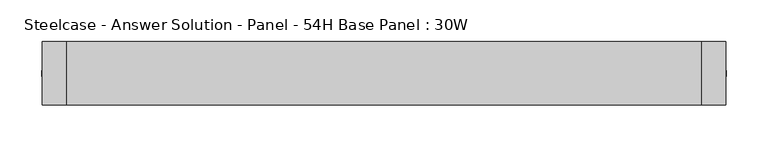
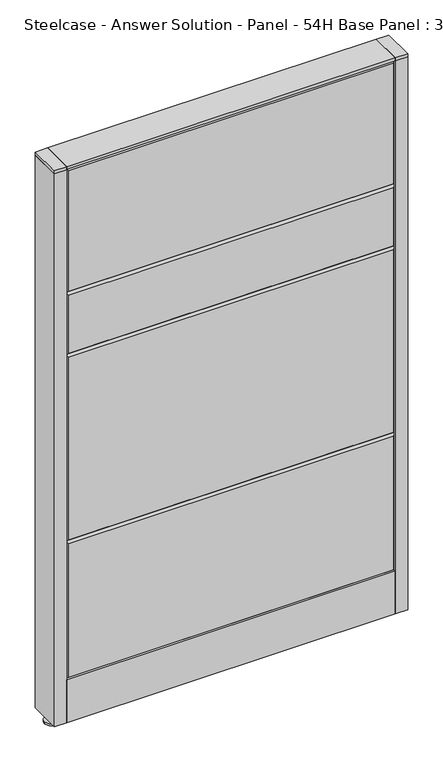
"""IFC4 building model written with IfcOpenShell, lengths in millimetres: furniture geometry, Steelcase - Answer Solution - Panel - 54H Base Panel : 30W."""

from ifc_helpers import new_model, si_unit, point, frame, frame_2d, origin, place, context, project, spatial, polyline, circle_curve, trimmed, segment, composite_curve, outline, extrude, faceted_brep, source, transform, mapped, element, save


def steelcase_answer_solution_panel_54h_base_panel_30w_f4afe34c(model_context):
    return source(origin(), model_context, "Body", "SolidModel", [
        extrude(outline(composite_curve([segment(trimmed(circle_curve(frame_2d((395.224, 0.0320214)), 5.08), [point((400.304, 0.0320214))], [point((390.144, 0.0320214))], False, "CARTESIAN"), True, "CONTINUOUS"), segment(trimmed(circle_curve(frame_2d((395.224, 0.0320214)), 5.08), [point((390.144, 0.0320214))], [point((400.304, 0.0320214))], False, "CARTESIAN"), True, "CONTINUOUS")], self_intersect=False)), frame((0.0, 0.0, 5.0799671), z_axis=(0.0, 0.0, 1.0), x_axis=(1.0, 0.0, 0.0)), (0.0, 0.0, 1.0), 10.414),
        extrude(outline(composite_curve([segment(trimmed(circle_curve(frame_2d((395.224, 0.0320214)), 15.24), [point((410.464, 0.0320214))], [point((379.984, 0.0320214))], False, "CARTESIAN"), True, "CONTINUOUS"), segment(trimmed(circle_curve(frame_2d((395.224, 0.0320214)), 15.24), [point((379.984, 0.0320214))], [point((410.464, 0.0320214))], False, "CARTESIAN"), True, "CONTINUOUS")], self_intersect=False)), frame((0.0, 0.0, -3.29e-05), z_axis=(0.0, 0.0, 1.0), x_axis=(1.0, 0.0, 0.0)), (0.0, 0.0, 1.0), 5.08),
        extrude(outline(polyline([(409.575, 38.1320408), (409.575, -38.0679592), (381.0, -38.0679592), (381.0, 38.1320408), (409.575, 38.1320408)])), frame((0.0, 0.0, 1370.6348), z_axis=(0.0, 0.0, 1.0), x_axis=(1.0, 0.0, 0.0)), (0.0, 0.0, 1.0), 7.3151671),
        extrude(outline(polyline([(409.575, 38.1320408), (409.575, -38.0679592), (381.0, -38.0679592), (381.0, 38.1320408), (409.575, 38.1320408)])), frame((0.0, 0.0, 15.4939671), z_axis=(0.0, 0.0, 1.0), x_axis=(1.0, 0.0, 0.0)), (0.0, 0.0, 1.0), 1355.1408329),
        extrude(outline(composite_curve([segment(trimmed(circle_curve(frame_2d((-395.224, 0.0320214)), 5.08), [point((-400.304, 0.0320214))], [point((-390.144, 0.0320214))], False, "CARTESIAN"), True, "CONTINUOUS"), segment(trimmed(circle_curve(frame_2d((-395.224, 0.0320214)), 5.08), [point((-390.144, 0.0320214))], [point((-400.304, 0.0320214))], False, "CARTESIAN"), True, "CONTINUOUS")], self_intersect=False)), frame((0.0, 0.0, 5.0799671), z_axis=(0.0, 0.0, 1.0), x_axis=(1.0, 0.0, 0.0)), (0.0, 0.0, 1.0), 10.414),
        extrude(outline(composite_curve([segment(trimmed(circle_curve(frame_2d((-395.224, 0.0320214)), 15.24), [point((-410.464, 0.0320214))], [point((-379.984, 0.0320214))], False, "CARTESIAN"), True, "CONTINUOUS"), segment(trimmed(circle_curve(frame_2d((-395.224, 0.0320214)), 15.24), [point((-379.984, 0.0320214))], [point((-410.464, 0.0320214))], False, "CARTESIAN"), True, "CONTINUOUS")], self_intersect=False)), frame((0.0, 0.0, -3.29e-05), z_axis=(0.0, 0.0, 1.0), x_axis=(1.0, 0.0, 0.0)), (0.0, 0.0, 1.0), 5.08),
        extrude(outline(polyline([(-409.575, 38.1320408), (-381.0, 38.1320408), (-381.0, -38.0679592), (-409.575, -38.0679592), (-409.575, 38.1320408)])), frame((0.0, 0.0, 1370.6348), z_axis=(0.0, 0.0, 1.0), x_axis=(1.0, 0.0, 0.0)), (0.0, 0.0, 1.0), 7.3151671),
        extrude(outline(polyline([(-409.575, 38.1320408), (-381.0, 38.1320408), (-381.0, -38.0679592), (-409.575, -38.0679592), (-409.575, 38.1320408)])), frame((0.0, 0.0, 15.4939671), z_axis=(0.0, 0.0, 1.0), x_axis=(1.0, 0.0, 0.0)), (0.0, 0.0, 1.0), 1355.1408329),
        faceted_brep([(-376.174, 38.1635011, 1366.774), (376.174, 38.1635011, 1366.774), (376.174, 38.1635011, 1071.626), (-376.174, 38.1635011, 1071.626), (-381.0, 33.3375011, 1371.6), (-381.0, 33.3375011, 1066.8), (381.0, 33.3375011, 1066.8), (381.0, 33.3375011, 1371.6)], [[[0, 1, 2, 3]], [[4, 5, 6, 7]], [[4, 7, 1, 0]], [[7, 6, 2, 1]], [[6, 5, 3, 2]], [[5, 4, 0, 3]]]),
        faceted_brep([(-376.174, 38.1635011, 1061.974), (376.174, 38.1635011, 1061.974), (376.174, 38.1635011, 919.226), (-376.174, 38.1635011, 919.226), (-381.0, 33.3375011, 1066.8), (-381.0, 33.3375011, 914.4), (381.0, 33.3375011, 914.4), (381.0, 33.3375011, 1066.8)], [[[0, 1, 2, 3]], [[4, 5, 6, 7]], [[4, 7, 1, 0]], [[7, 6, 2, 1]], [[6, 5, 3, 2]], [[5, 4, 0, 3]]]),
        faceted_brep([(-376.174, 38.1635011, 909.574), (376.174, 38.1635011, 909.574), (376.174, 38.1635011, 462.026), (-376.174, 38.1635011, 462.026), (-381.0, 33.3375011, 914.4), (-381.0, 33.3375011, 457.2), (381.0, 33.3375011, 457.2), (381.0, 33.3375011, 914.4)], [[[0, 1, 2, 3]], [[4, 5, 6, 7]], [[4, 7, 1, 0]], [[7, 6, 2, 1]], [[6, 5, 3, 2]], [[5, 4, 0, 3]]]),
        faceted_brep([(-376.174, 38.1635011, 452.374), (376.174, 38.1635011, 452.374), (376.174, 38.1635011, 125.476), (-376.174, 38.1635011, 125.476), (-381.0, 33.3375011, 457.2), (-381.0, 33.3375011, 120.65), (381.0, 33.3375011, 120.65), (381.0, 33.3375011, 457.2)], [[[0, 1, 2, 3]], [[4, 5, 6, 7]], [[4, 7, 1, 0]], [[7, 6, 2, 1]], [[6, 5, 3, 2]], [[5, 4, 0, 3]]]),
        faceted_brep([(376.174, -38.1635011, 1366.774), (-376.174, -38.1635011, 1366.774), (-376.174, -38.1635011, 1071.626), (376.174, -38.1635011, 1071.626), (381.0, -33.3375011, 1371.6), (381.0, -33.3375011, 1066.8), (-381.0, -33.3375011, 1066.8), (-381.0, -33.3375011, 1371.6)], [[[0, 1, 2, 3]], [[4, 5, 6, 7]], [[4, 7, 1, 0]], [[7, 6, 2, 1]], [[6, 5, 3, 2]], [[5, 4, 0, 3]]]),
        faceted_brep([(376.174, -38.1635011, 1061.974), (-376.174, -38.1635011, 1061.974), (-376.174, -38.1635011, 919.226), (376.174, -38.1635011, 919.226), (381.0, -33.3375011, 1066.8), (381.0, -33.3375011, 914.4), (-381.0, -33.3375011, 914.4), (-381.0, -33.3375011, 1066.8)], [[[0, 1, 2, 3]], [[4, 5, 6, 7]], [[4, 7, 1, 0]], [[7, 6, 2, 1]], [[6, 5, 3, 2]], [[5, 4, 0, 3]]]),
        faceted_brep([(376.174, -38.1635011, 909.574), (-376.174, -38.1635011, 909.574), (-376.174, -38.1635011, 462.026), (376.174, -38.1635011, 462.026), (381.0, -33.3375011, 914.4), (381.0, -33.3375011, 457.2), (-381.0, -33.3375011, 457.2), (-381.0, -33.3375011, 914.4)], [[[0, 1, 2, 3]], [[4, 5, 6, 7]], [[4, 7, 1, 0]], [[7, 6, 2, 1]], [[6, 5, 3, 2]], [[5, 4, 0, 3]]]),
        faceted_brep([(376.174, -38.1635011, 452.374), (-376.174, -38.1635011, 452.374), (-376.174, -38.1635011, 125.476), (376.174, -38.1635011, 125.476), (381.0, -33.3375011, 457.2), (381.0, -33.3375011, 120.65), (-381.0, -33.3375011, 120.65), (-381.0, -33.3375011, 457.2)], [[[0, 1, 2, 3]], [[4, 5, 6, 7]], [[4, 7, 1, 0]], [[7, 6, 2, 1]], [[6, 5, 3, 2]], [[5, 4, 0, 3]]]),
        extrude(outline(polyline([(381.0, 38.1000194), (381.0, -38.1000194), (-381.0, -38.1000194), (-381.0, 38.1000194), (381.0, 38.1000194)])), frame((0.0, 0.0, 1371.6), z_axis=(0.0, 0.0, 1.0), x_axis=(1.0, 0.0, 0.0)), (0.0, 0.0, 1.0), 6.35),
        extrude(outline(polyline([(25.4000011, 119.8575157), (25.4000011, 120.65), (38.1000194, 120.65), (38.1000194, 15.494), (37.3075215, 15.494), (37.3075215, 119.8575157), (25.4000011, 119.8575157)])), frame((-381.0, 0.0, 0.0), z_axis=(1.0, 0.0, 0.0), x_axis=(0.0, 1.0, 0.0)), (0.0, 0.0, 1.0), 762.0),
        extrude(outline(polyline([(-25.4000011, 119.8575157), (-37.3075215, 119.8575157), (-37.3075215, 15.494), (-38.1000194, 15.494), (-38.1000194, 120.65), (-25.4000011, 120.65), (-25.4000011, 119.8575157)])), frame((-381.0, 0.0, 0.0), z_axis=(1.0, 0.0, 0.0), x_axis=(0.0, 1.0, 0.0)), (0.0, 0.0, 1.0), 762.0),
    ])


if __name__ == "__main__":
    model = new_model("IFC4")
    model_context = context("Model", 3, world=origin())
    ifc_project = project(units=[si_unit("LENGTHUNIT", "METRE", prefix="MILLI")], contexts=[model_context])
    site = spatial("IfcSite", under=ifc_project)
    building = spatial("IfcBuilding", under=site)
    placement = place(None, origin())
    steelcase_answer_solution_panel_54h_base_panel_30w_shape = steelcase_answer_solution_panel_54h_base_panel_30w_f4afe34c(model_context)
    element("IfcFurniture", 1, ObjectType="Steelcase - Answer Solution - Panel - 54H Base Panel : 30W", at=placement, inside=building, context=model_context, shape_type="MappedRepresentation", body=[
        mapped(steelcase_answer_solution_panel_54h_base_panel_30w_shape, transform((0.0, 0.0, 0.0), x_axis=(1.0, 0.0, 0.0), y_axis=(0.0, 1.0, 0.0), z_axis=(0.0, 0.0, 1.0))),
    ])
    save(model, "model.ifc")
